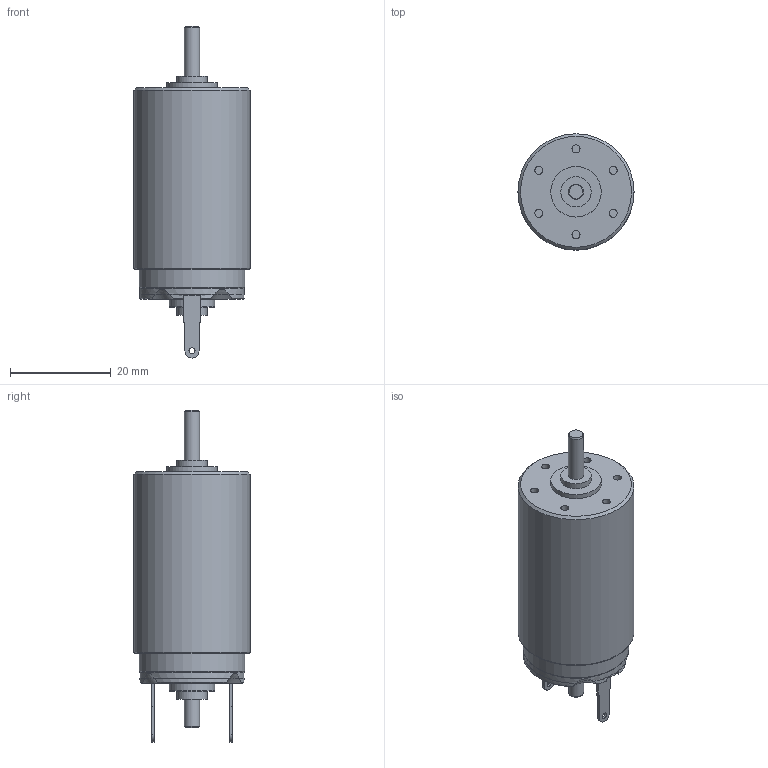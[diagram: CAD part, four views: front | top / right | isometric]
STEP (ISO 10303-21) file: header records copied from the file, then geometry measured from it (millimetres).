
FILE_DESCRIPTION(/* description */ (''),/* implementation_level */ '2;1');
FILE_NAME(/* name */ '2342.CR.stp',/* time_stamp */ '2012-11-06T13:28:08+01:00',/* author */ ('DR. FRITZ FAULHABER GmbH & Co. KG'),/* organization */ ('DR. FRITZ FAULHABER GmbH & Co. KG'),/* preprocessor_version */ 'ST-DEVELOPER v11',/* originating_system */ 'SIEMENS PLM Software NX 7.5',/* authorisation */ '');
FILE_SCHEMA (('AUTOMOTIVE_DESIGN { 1 0 10303 214 1 1 1 1 }'));
Length unit declared in the file: millimetre
Products named in the file (1): 2342.CR
Bounding box: 23 x 23 x 65.8 mm (x, y, z)
Volume: 17329.4 mm3; surface area: 4498.4 mm2
Topology: 1 solids, 1 shells, 121 faces, 278 edges, 181 vertices
Faces by surface type: plane 60, cylinder 32, cone 29
Full cylindrical faces by diameter (mm): 1.2 x2, 1.3 x3, 1.6 x6, 1.8 x5, 3 x2, 6 x2, 9 x1, 10 x1, 18 x1, 20.8 x1, 21 x1, 23 x1
Entity records: 3342 total; most frequent: CARTESIAN_POINT 680, DIRECTION 564, ORIENTED_EDGE 476, EDGE_CURVE 238, AXIS2_PLACEMENT_3D 228, EDGE_LOOP 182, VERTEX_POINT 176, ADVANCED_FACE 121
